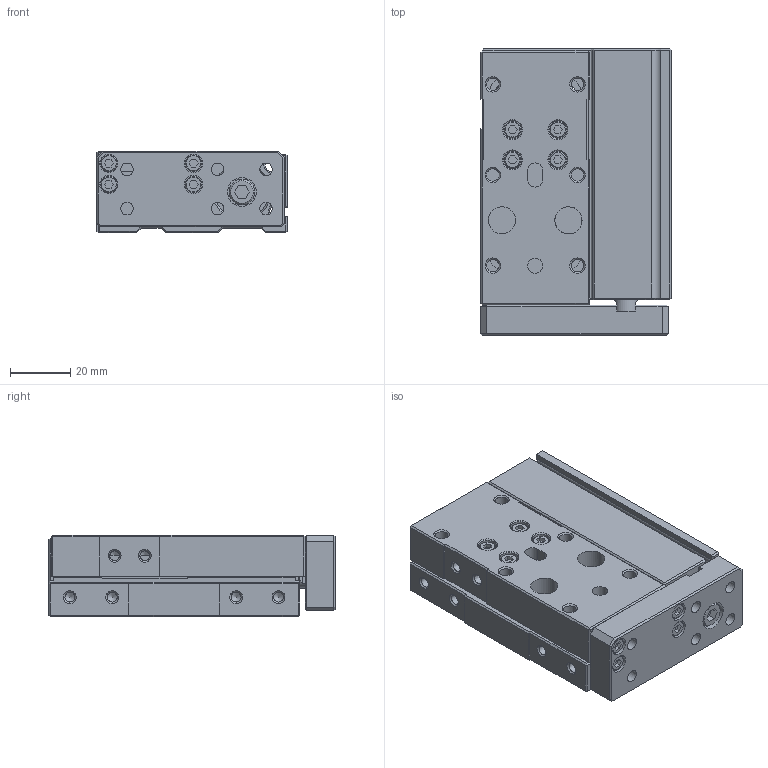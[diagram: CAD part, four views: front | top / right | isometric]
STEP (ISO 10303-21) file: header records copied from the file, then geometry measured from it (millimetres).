
FILE_DESCRIPTION((''),'2;1');
FILE_NAME('I:\3D電子目錄\氣缸\FMR(L)\FMR(L)\FMR16x30.stp','2007-10-15T16:00:42',('Administrator'),(''),'Autodesk Inventor 11','Autodesk Inventor 11','');
FILE_SCHEMA(('AUTOMOTIVE_DESIGN { 1 0 10303 214 1 1 1 1 }'));
Length unit declared in the file: millimetre
Products named in the file (1): FMR16x30
Bounding box: 63 x 94.8 x 27 mm (x, y, z)
Volume: 118414.6 mm3; surface area: 46777 mm2
Topology: 15 solids, 15 shells, 548 faces, 1284 edges, 809 vertices
Faces by surface type: plane 347, bspline 96, cylinder 66, cone 39
Full cylindrical faces by diameter (mm): 0.8 x2, 2 x2, 5 x4, 5.5 x8, 6 x1, 6.5 x2, 8 x3, 8.5 x1, 9 x2, 9.95 x1, 11 x1, 13 x1, 13.5 x2, 16 x3, 18 x4, 19.2 x2
Entity records: 15553 total; most frequent: CARTESIAN_POINT 3924, DIRECTION 2293, ORIENTED_EDGE 2184, EDGE_CURVE 1092, EDGE_LOOP 801, AXIS2_PLACEMENT_3D 767, VECTOR 759, LINE 759
